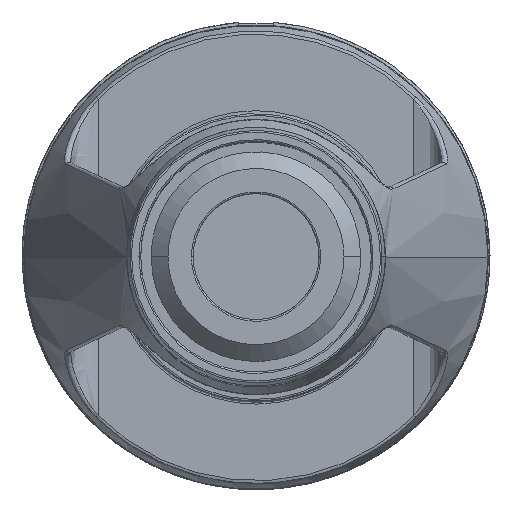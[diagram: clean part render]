
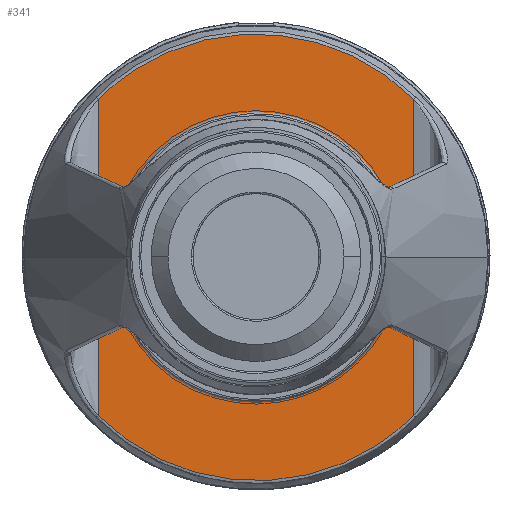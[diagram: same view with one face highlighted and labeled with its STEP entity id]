
A CAD part, top view. The second image highlights one B-rep face of the part: STEP entity #341.
In plain terms, the highlighted planar face has unit normal (0, 0, 1).
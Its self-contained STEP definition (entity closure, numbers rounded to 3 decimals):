
#168=PLANE('',#2504);
#341=ADVANCED_FACE('',(#510),#168,.T.);
#510=FACE_OUTER_BOUND('',#680,.T.);
#680=EDGE_LOOP('',(#962,#963,#964,#965));
#962=ORIENTED_EDGE('',*,*,#1621,.T.);
#963=ORIENTED_EDGE('',*,*,#1567,.F.);
#964=ORIENTED_EDGE('',*,*,#1597,.T.);
#965=ORIENTED_EDGE('',*,*,#1573,.T.);
#1567=EDGE_CURVE('',#2175,#2192,#1923,.T.);
#1573=EDGE_CURVE('',#2182,#2198,#1926,.T.);
#1597=EDGE_CURVE('',#2175,#2182,#1950,.T.);
#1621=EDGE_CURVE('',#2198,#2192,#1974,.T.);
#1923=(
BOUNDED_CURVE()
B_SPLINE_CURVE(1,(#4497,#4498),.UNSPECIFIED.,.F.,.F.)
B_SPLINE_CURVE_WITH_KNOTS((2,2),(121.791,207.456),
 .UNSPECIFIED.)
CURVE()
GEOMETRIC_REPRESENTATION_ITEM()
RATIONAL_B_SPLINE_CURVE((1.,1.))
REPRESENTATION_ITEM('')
);
#1926=(
BOUNDED_CURVE()
B_SPLINE_CURVE(1,(#4509,#4510),.UNSPECIFIED.,.F.,.F.)
B_SPLINE_CURVE_WITH_KNOTS((2,2),(121.791,207.456),
 .UNSPECIFIED.)
CURVE()
GEOMETRIC_REPRESENTATION_ITEM()
RATIONAL_B_SPLINE_CURVE((1.,1.))
REPRESENTATION_ITEM('')
);
#1950=(
BOUNDED_CURVE()
B_SPLINE_CURVE(3,(#4772,#4773,#4774,#4775,#4776,#4777,#4778,#4779,#4780,
#4781,#4782,#4783,#4784),.UNSPECIFIED.,.F.,.F.)
B_SPLINE_CURVE_WITH_KNOTS((4,1,1,1,1,1,1,1,1,1,4),(-0.657,11.166,
22.989,36.232,42.854,49.476,56.098,
62.721,75.965,89.085,99.61),
 .UNSPECIFIED.)
CURVE()
GEOMETRIC_REPRESENTATION_ITEM()
RATIONAL_B_SPLINE_CURVE((1.,1.,1.,1.,1.,1.,
1.,1.,1.,1.,1.,1.,1.))
REPRESENTATION_ITEM('')
);
#1974=(
BOUNDED_CURVE()
B_SPLINE_CURVE(3,(#4998,#4999,#5000,#5001,#5002,#5003,#5004,#5005,#5006,
#5007,#5008,#5009,#5010),.UNSPECIFIED.,.F.,.F.)
B_SPLINE_CURVE_WITH_KNOTS((4,1,1,1,1,1,1,1,1,1,4),(-0.657,11.166,
22.989,36.232,42.854,49.476,56.098,
62.721,75.965,89.085,99.61),
 .UNSPECIFIED.)
CURVE()
GEOMETRIC_REPRESENTATION_ITEM()
RATIONAL_B_SPLINE_CURVE((1.,1.,1.,1.,1.,1.,
1.,1.,1.,1.,1.,1.,1.))
REPRESENTATION_ITEM('')
);
#2175=VERTEX_POINT('',#4311);
#2182=VERTEX_POINT('',#4318);
#2192=VERTEX_POINT('',#4328);
#2198=VERTEX_POINT('',#4334);
#2504=AXIS2_PLACEMENT_3D('',#3860,#2546,$);
#2546=DIRECTION('',(0.,0.,1.));
#3860=CARTESIAN_POINT('',(-45.155,174.211,12.971));
#4311=CARTESIAN_POINT('',(45.154,45.435,12.971));
#4318=CARTESIAN_POINT('',(-45.155,45.435,12.971));
#4328=CARTESIAN_POINT('',(45.154,-45.143,12.971));
#4334=CARTESIAN_POINT('',(-45.155,-45.143,12.971));
#4497=CARTESIAN_POINT('',(45.154,45.435,12.971));
#4498=CARTESIAN_POINT('',(45.154,-45.143,12.971));
#4509=CARTESIAN_POINT('',(-45.155,45.435,12.971));
#4510=CARTESIAN_POINT('',(-45.155,-45.143,12.971));
#4772=CARTESIAN_POINT('',(45.154,45.435,12.971));
#4773=CARTESIAN_POINT('',(42.363,48.218,12.971));
#4774=CARTESIAN_POINT('',(36.266,53.265,12.971));
#4775=CARTESIAN_POINT('',(25.468,59.257,12.971));
#4776=CARTESIAN_POINT('',(15.357,62.504,12.971));
#4777=CARTESIAN_POINT('',(6.622,63.87,12.971));
#4778=CARTESIAN_POINT('',(0.,64.214,12.971));
#4779=CARTESIAN_POINT('',(-6.622,63.87,12.971));
#4780=CARTESIAN_POINT('',(-15.357,62.503,12.971));
#4781=CARTESIAN_POINT('',(-25.883,59.125,12.971));
#4782=CARTESIAN_POINT('',(-36.629,53.016,12.971));
#4783=CARTESIAN_POINT('',(-42.67,47.912,12.971));
#4784=CARTESIAN_POINT('',(-45.155,45.435,12.971));
#4998=CARTESIAN_POINT('',(-45.155,-45.143,12.971));
#4999=CARTESIAN_POINT('',(-42.364,-47.926,12.971));
#5000=CARTESIAN_POINT('',(-36.266,-52.973,12.971));
#5001=CARTESIAN_POINT('',(-25.468,-58.965,12.971));
#5002=CARTESIAN_POINT('',(-15.357,-62.212,12.971));
#5003=CARTESIAN_POINT('',(-6.622,-63.578,12.971));
#5004=CARTESIAN_POINT('',(0.,-63.922,12.971));
#5005=CARTESIAN_POINT('',(6.622,-63.578,12.971));
#5006=CARTESIAN_POINT('',(15.357,-62.211,12.971));
#5007=CARTESIAN_POINT('',(25.883,-58.833,12.971));
#5008=CARTESIAN_POINT('',(36.629,-52.724,12.971));
#5009=CARTESIAN_POINT('',(42.67,-47.62,12.971));
#5010=CARTESIAN_POINT('',(45.154,-45.143,12.971));
